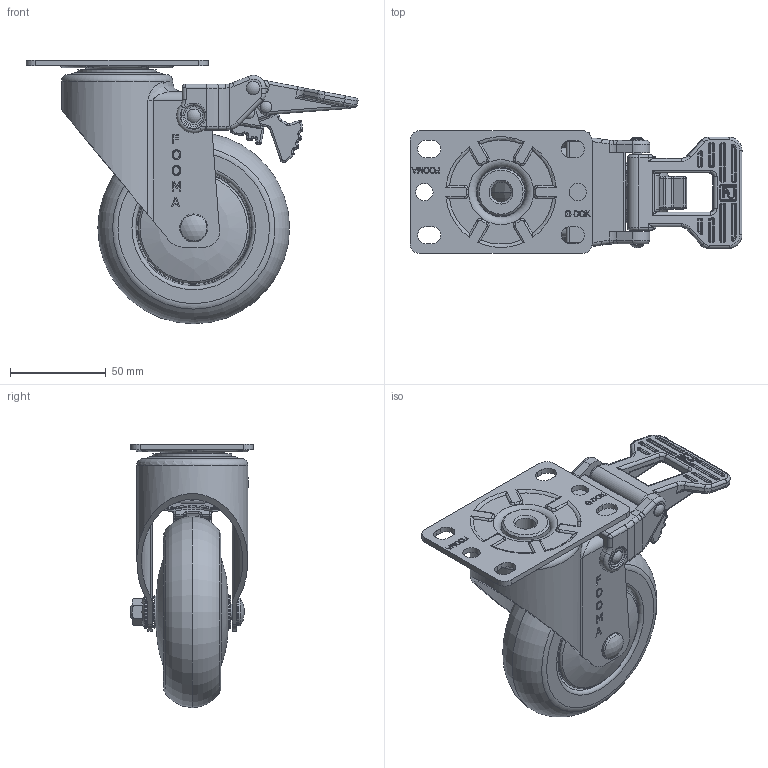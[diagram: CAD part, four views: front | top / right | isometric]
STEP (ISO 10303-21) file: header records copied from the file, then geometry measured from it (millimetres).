
FILE_DESCRIPTION(/* description */ (''),/* implementation_level */ '2;1');
FILE_NAME(/* name */ 'E:\홈피용도면\\X2\C2E0ADDCD648D398C774C9C0C6A9B3C4BA74\X0\\무소음캐스터\20160225-\X2\BB34C18CC74CCE90C2A4D130\X0\\PL-100-BSF.stp',/* time_stamp */ '2016-02-25T22:23:21+09:00',/* author */ ('장용하'),/* organization */ (''),/* preprocessor_version */ 'ST-DEVELOPER v15.6',/* originating_system */ 'Autodesk Inventor 2015',/* authorisation */ '');
FILE_SCHEMA (('AUTOMOTIVE_DESIGN { 1 0 10303 214 3 1 1 }'));
Length unit declared in the file: millimetre
Products named in the file (1): PL-100-BSF
Bounding box: 173.2 x 64.25 x 137.5 mm (x, y, z)
Volume: 303220.2 mm3; surface area: 120345.1 mm2
Topology: 2 solids, 2 shells, 2608 faces, 6736 edges, 4103 vertices
Faces by surface type: plane 1194, cylinder 761, torus 277, bspline 213, sphere 115, cone 48
Full cylindrical faces by diameter (mm): 4 x2, 4.2 x8, 5 x2, 5.2 x7, 6 x4, 7 x4, 8 x2, 9 x2, 10.441 x1, 12.5 x1, 14.6 x1, 15.5 x1, 16.9 x1, 17 x2, 22 x2, 24.667 x2, 25 x1, 32.333 x2, 34 x1, 36 x1, 41 x1, 53 x1, 58 x1
Entity records: 87798 total; most frequent: CARTESIAN_POINT 25575, DIRECTION 12940, ORIENTED_EDGE 12890, EDGE_CURVE 6442, AXIS2_PLACEMENT_3D 4538, VERTEX_POINT 4077, LINE 3864, VECTOR 3864
